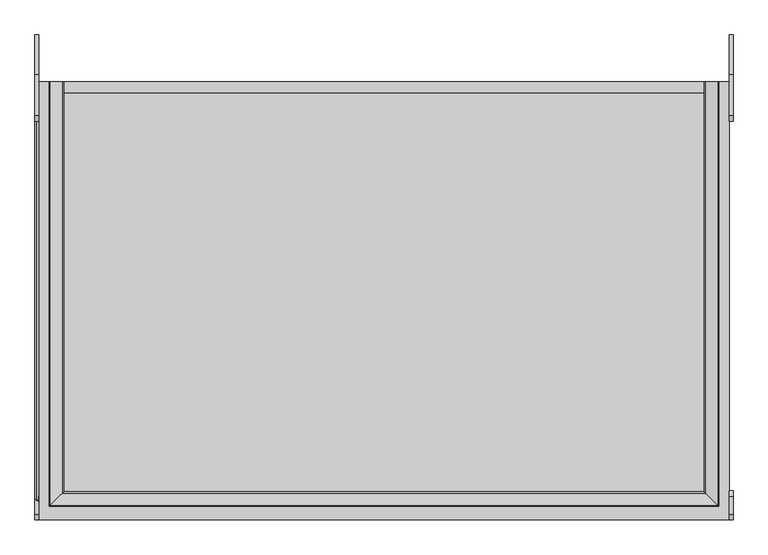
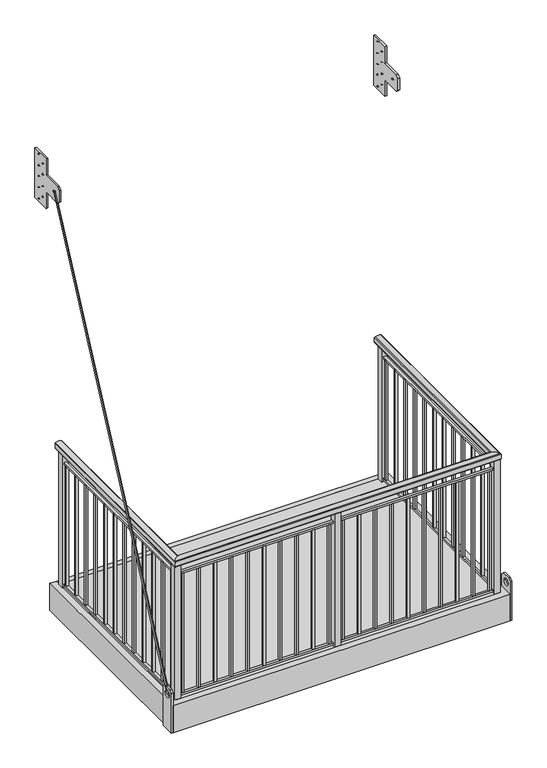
"""IFC4 building model written with IfcOpenShell, lengths in millimetres: proxy geometry, Specialty-Equipment_Endurable-Building-Products_Standard-Balcony : Vertical Pickets 5' x 8'."""

from ifc_helpers import new_model, si_unit, point, frame, frame_2d, origin, place, context, project, spatial, polyline, circle_curve, ellipse_curve, trimmed, segment, composite_curve, outline, extrude, source, transform, mapped, element, save
from ifc_brep_helpers import plane_surface, cylinder_surface, advanced_brep


def specialty_equipment_2b6d5515(model_context):
    return source(origin(), model_context, "Body", "SolidModel", [
        extrude(outline(polyline([(25.1129964, 3238.5), (164.8129964, 3238.5), (164.8129964, 2857.5), (25.1129964, 2857.5), (25.1129964, 2984.5), (-120.9370036, 2984.5), (-139.9870036, 3003.55), (-139.9870036, 3092.45), (-120.9370036, 3111.5), (25.1129964, 3111.5), (25.1129964, 3238.5)]), holes=[composite_curve([segment(trimmed(circle_curve(frame_2d((-69.85, 3048.0)), 6.35), [point((-63.5, 3048.0))], [point((-76.2, 3048.0))], True, "CARTESIAN"), True, "CONTINUOUS"), segment(trimmed(circle_curve(frame_2d((-69.85, 3048.0)), 6.35), [point((-76.2, 3048.0))], [point((-63.5, 3048.0))], True, "CARTESIAN"), True, "CONTINUOUS")], self_intersect=False), composite_curve([segment(trimmed(circle_curve(frame_2d((120.3629964, 3048.0)), 2.38125), [point((122.7442464, 3048.0))], [point((117.9817464, 3048.0))], True, "CARTESIAN"), True, "CONTINUOUS"), segment(trimmed(circle_curve(frame_2d((120.3629964, 3048.0)), 2.38125), [point((117.9817464, 3048.0))], [point((122.7442464, 3048.0))], True, "CARTESIAN"), True, "CONTINUOUS")], self_intersect=False), composite_curve([segment(trimmed(circle_curve(frame_2d((120.3629964, 3219.45)), 2.38125), [point((122.7442464, 3219.45))], [point((117.9817464, 3219.45))], True, "CARTESIAN"), True, "CONTINUOUS"), segment(trimmed(circle_curve(frame_2d((120.3629964, 3219.45)), 2.38125), [point((117.9817464, 3219.45))], [point((122.7442464, 3219.45))], True, "CARTESIAN"), True, "CONTINUOUS")], self_intersect=False), composite_curve([segment(trimmed(circle_curve(frame_2d((120.3629964, 2876.55)), 2.38125), [point((122.7442464, 2876.55))], [point((117.9817464, 2876.55))], True, "CARTESIAN"), True, "CONTINUOUS"), segment(trimmed(circle_curve(frame_2d((120.3629964, 2876.55)), 2.38125), [point((117.9817464, 2876.55))], [point((122.7442464, 2876.55))], True, "CARTESIAN"), True, "CONTINUOUS")], self_intersect=False), composite_curve([segment(trimmed(circle_curve(frame_2d((120.3629964, 2965.45)), 2.38125), [point((122.7442464, 2965.45))], [point((117.9817464, 2965.45))], True, "CARTESIAN"), True, "CONTINUOUS"), segment(trimmed(circle_curve(frame_2d((120.3629964, 2965.45)), 2.38125), [point((117.9817464, 2965.45))], [point((122.7442464, 2965.45))], True, "CARTESIAN"), True, "CONTINUOUS")], self_intersect=False), composite_curve([segment(trimmed(circle_curve(frame_2d((120.3629964, 3130.55)), 2.38125), [point((122.7442464, 3130.55))], [point((117.9817464, 3130.55))], True, "CARTESIAN"), True, "CONTINUOUS"), segment(trimmed(circle_curve(frame_2d((120.3629964, 3130.55)), 2.38125), [point((117.9817464, 3130.55))], [point((122.7442464, 3130.55))], True, "CARTESIAN"), True, "CONTINUOUS")], self_intersect=False), composite_curve([segment(trimmed(circle_curve(frame_2d((69.5629964, 3092.45)), 2.38125), [point((71.9442464, 3092.45))], [point((67.1817464, 3092.45))], True, "CARTESIAN"), True, "CONTINUOUS"), segment(trimmed(circle_curve(frame_2d((69.5629964, 3092.45)), 2.38125), [point((67.1817464, 3092.45))], [point((71.9442464, 3092.45))], True, "CARTESIAN"), True, "CONTINUOUS")], self_intersect=False), composite_curve([segment(trimmed(circle_curve(frame_2d((69.5629964, 3175.0)), 2.38125), [point((71.9442464, 3175.0))], [point((67.1817464, 3175.0))], True, "CARTESIAN"), True, "CONTINUOUS"), segment(trimmed(circle_curve(frame_2d((69.5629964, 3175.0)), 2.38125), [point((67.1817464, 3175.0))], [point((71.9442464, 3175.0))], True, "CARTESIAN"), True, "CONTINUOUS")], self_intersect=False), composite_curve([segment(trimmed(circle_curve(frame_2d((69.5629964, 3003.55)), 2.38125), [point((71.9442464, 3003.55))], [point((67.1817464, 3003.55))], True, "CARTESIAN"), True, "CONTINUOUS"), segment(trimmed(circle_curve(frame_2d((69.5629964, 3003.55)), 2.38125), [point((67.1817464, 3003.55))], [point((71.9442464, 3003.55))], True, "CARTESIAN"), True, "CONTINUOUS")], self_intersect=False), composite_curve([segment(trimmed(circle_curve(frame_2d((69.5629964, 2921.0)), 2.38125), [point((71.9442464, 2921.0))], [point((67.1817464, 2921.0))], True, "CARTESIAN"), True, "CONTINUOUS"), segment(trimmed(circle_curve(frame_2d((69.5629964, 2921.0)), 2.38125), [point((67.1817464, 2921.0))], [point((71.9442464, 2921.0))], True, "CARTESIAN"), True, "CONTINUOUS")], self_intersect=False)]), frame((-1231.9, 0.0, 0.0), z_axis=(1.0, 0.0, 0.0), x_axis=(0.0, 1.0, 0.0)), (0.0, 0.0, 1.0), 12.7),
        extrude(outline(polyline([(25.1129964, 3238.5), (164.8129964, 3238.5), (164.8129964, 2857.5), (25.1129964, 2857.5), (25.1129964, 2984.5), (-120.9370036, 2984.5), (-139.9870036, 3003.55), (-139.9870036, 3092.45), (-120.9370036, 3111.5), (25.1129964, 3111.5), (25.1129964, 3238.5)]), holes=[composite_curve([segment(trimmed(circle_curve(frame_2d((-69.85, 3048.0)), 6.35), [point((-63.5, 3048.0))], [point((-76.2, 3048.0))], True, "CARTESIAN"), True, "CONTINUOUS"), segment(trimmed(circle_curve(frame_2d((-69.85, 3048.0)), 6.35), [point((-76.2, 3048.0))], [point((-63.5, 3048.0))], True, "CARTESIAN"), True, "CONTINUOUS")], self_intersect=False), composite_curve([segment(trimmed(circle_curve(frame_2d((120.3629964, 3048.0)), 2.38125), [point((122.7442464, 3048.0))], [point((117.9817464, 3048.0))], True, "CARTESIAN"), True, "CONTINUOUS"), segment(trimmed(circle_curve(frame_2d((120.3629964, 3048.0)), 2.38125), [point((117.9817464, 3048.0))], [point((122.7442464, 3048.0))], True, "CARTESIAN"), True, "CONTINUOUS")], self_intersect=False), composite_curve([segment(trimmed(circle_curve(frame_2d((120.3629964, 3219.45)), 2.38125), [point((122.7442464, 3219.45))], [point((117.9817464, 3219.45))], True, "CARTESIAN"), True, "CONTINUOUS"), segment(trimmed(circle_curve(frame_2d((120.3629964, 3219.45)), 2.38125), [point((117.9817464, 3219.45))], [point((122.7442464, 3219.45))], True, "CARTESIAN"), True, "CONTINUOUS")], self_intersect=False), composite_curve([segment(trimmed(circle_curve(frame_2d((120.3629964, 2876.55)), 2.38125), [point((122.7442464, 2876.55))], [point((117.9817464, 2876.55))], True, "CARTESIAN"), True, "CONTINUOUS"), segment(trimmed(circle_curve(frame_2d((120.3629964, 2876.55)), 2.38125), [point((117.9817464, 2876.55))], [point((122.7442464, 2876.55))], True, "CARTESIAN"), True, "CONTINUOUS")], self_intersect=False), composite_curve([segment(trimmed(circle_curve(frame_2d((120.3629964, 2965.45)), 2.38125), [point((122.7442464, 2965.45))], [point((117.9817464, 2965.45))], True, "CARTESIAN"), True, "CONTINUOUS"), segment(trimmed(circle_curve(frame_2d((120.3629964, 2965.45)), 2.38125), [point((117.9817464, 2965.45))], [point((122.7442464, 2965.45))], True, "CARTESIAN"), True, "CONTINUOUS")], self_intersect=False), composite_curve([segment(trimmed(circle_curve(frame_2d((120.3629964, 3130.55)), 2.38125), [point((122.7442464, 3130.55))], [point((117.9817464, 3130.55))], True, "CARTESIAN"), True, "CONTINUOUS"), segment(trimmed(circle_curve(frame_2d((120.3629964, 3130.55)), 2.38125), [point((117.9817464, 3130.55))], [point((122.7442464, 3130.55))], True, "CARTESIAN"), True, "CONTINUOUS")], self_intersect=False), composite_curve([segment(trimmed(circle_curve(frame_2d((69.5629964, 3092.45)), 2.38125), [point((71.9442464, 3092.45))], [point((67.1817464, 3092.45))], True, "CARTESIAN"), True, "CONTINUOUS"), segment(trimmed(circle_curve(frame_2d((69.5629964, 3092.45)), 2.38125), [point((67.1817464, 3092.45))], [point((71.9442464, 3092.45))], True, "CARTESIAN"), True, "CONTINUOUS")], self_intersect=False), composite_curve([segment(trimmed(circle_curve(frame_2d((69.5629964, 3175.0)), 2.38125), [point((71.9442464, 3175.0))], [point((67.1817464, 3175.0))], True, "CARTESIAN"), True, "CONTINUOUS"), segment(trimmed(circle_curve(frame_2d((69.5629964, 3175.0)), 2.38125), [point((67.1817464, 3175.0))], [point((71.9442464, 3175.0))], True, "CARTESIAN"), True, "CONTINUOUS")], self_intersect=False), composite_curve([segment(trimmed(circle_curve(frame_2d((69.5629964, 3003.55)), 2.38125), [point((71.9442464, 3003.55))], [point((67.1817464, 3003.55))], True, "CARTESIAN"), True, "CONTINUOUS"), segment(trimmed(circle_curve(frame_2d((69.5629964, 3003.55)), 2.38125), [point((67.1817464, 3003.55))], [point((71.9442464, 3003.55))], True, "CARTESIAN"), True, "CONTINUOUS")], self_intersect=False), composite_curve([segment(trimmed(circle_curve(frame_2d((69.5629964, 2921.0)), 2.38125), [point((71.9442464, 2921.0))], [point((67.1817464, 2921.0))], True, "CARTESIAN"), True, "CONTINUOUS"), segment(trimmed(circle_curve(frame_2d((69.5629964, 2921.0)), 2.38125), [point((67.1817464, 2921.0))], [point((71.9442464, 2921.0))], True, "CARTESIAN"), True, "CONTINUOUS")], self_intersect=False)]), frame((1219.2, 0.0, 0.0), z_axis=(1.0, 0.0, 0.0), x_axis=(0.0, 1.0, 0.0)), (0.0, 0.0, 1.0), 12.7),
        extrude(outline(polyline([(-1545.43125, -203.2), (-1545.43125, 96.7382813), (-1526.38125, 115.7882813), (-1462.88125, 115.7882813), (-1443.83125, 96.7382813), (-1443.83125, -203.2), (-1545.43125, -203.2)]), holes=[composite_curve([segment(trimmed(circle_curve(frame_2d((-1494.63125, 64.9882813)), 25.4), [point((-1520.03125, 64.9882813))], [point((-1469.23125, 64.9882813))], True, "CARTESIAN"), True, "CONTINUOUS"), segment(trimmed(circle_curve(frame_2d((-1494.63125, 64.9882813)), 25.4), [point((-1469.23125, 64.9882813))], [point((-1520.03125, 64.9882813))], True, "CARTESIAN"), True, "CONTINUOUS")], self_intersect=False)]), frame((-1231.9, 0.0, 0.0), z_axis=(1.0, 0.0, 0.0), x_axis=(0.0, 1.0, 0.0)), (0.0, 0.0, 1.0), 12.7),
        extrude(outline(polyline([(-1545.43125, -203.2), (-1545.43125, 96.7382812), (-1526.38125, 115.7882812), (-1462.88125, 115.7882812), (-1443.83125, 96.7382812), (-1443.83125, -203.2), (-1545.43125, -203.2)]), holes=[composite_curve([segment(trimmed(circle_curve(frame_2d((-1494.63125, 64.9882812)), 25.4), [point((-1520.03125, 64.9882812))], [point((-1469.23125, 64.9882812))], True, "CARTESIAN"), True, "CONTINUOUS"), segment(trimmed(circle_curve(frame_2d((-1494.63125, 64.9882812)), 25.4), [point((-1469.23125, 64.9882812))], [point((-1520.03125, 64.9882812))], True, "CARTESIAN"), True, "CONTINUOUS")], self_intersect=False)]), frame((1219.2, 0.0, 0.0), z_axis=(1.0, 0.0, 0.0), x_axis=(0.0, 1.0, 0.0)), (0.0, 0.0, 1.0), 12.7),
        extrude(outline(polyline([(-174.5368056, -1465.2625), (-158.6618056, -1465.2625), (-158.6618056, -1481.1375), (-174.5368056, -1481.1375), (-174.5368056, -1465.2625)])), frame((0.0, 0.0, 25.4), z_axis=(0.0, 0.0, 1.0), x_axis=(1.0, 0.0, 0.0)), (0.0, 0.0, 1.0), 914.4),
        extrude(outline(polyline([(-292.7173611, -1465.2625), (-276.8423611, -1465.2625), (-276.8423611, -1481.1375), (-292.7173611, -1481.1375), (-292.7173611, -1465.2625)])), frame((0.0, 0.0, 25.4), z_axis=(0.0, 0.0, 1.0), x_axis=(1.0, 0.0, 0.0)), (0.0, 0.0, 1.0), 914.4),
        extrude(outline(polyline([(-410.8979167, -1465.2625), (-395.0229167, -1465.2625), (-395.0229167, -1481.1375), (-410.8979167, -1481.1375), (-410.8979167, -1465.2625)])), frame((0.0, 0.0, 25.4), z_axis=(0.0, 0.0, 1.0), x_axis=(1.0, 0.0, 0.0)), (0.0, 0.0, 1.0), 914.4),
        extrude(outline(polyline([(-529.0784722, -1465.2625), (-513.2034722, -1465.2625), (-513.2034722, -1481.1375), (-529.0784722, -1481.1375), (-529.0784722, -1465.2625)])), frame((0.0, 0.0, 25.4), z_axis=(0.0, 0.0, 1.0), x_axis=(1.0, 0.0, 0.0)), (0.0, 0.0, 1.0), 914.4),
        extrude(outline(polyline([(-647.2590278, -1465.2625), (-631.3840278, -1465.2625), (-631.3840278, -1481.1375), (-647.2590278, -1481.1375), (-647.2590278, -1465.2625)])), frame((0.0, 0.0, 25.4), z_axis=(0.0, 0.0, 1.0), x_axis=(1.0, 0.0, 0.0)), (0.0, 0.0, 1.0), 914.4),
        extrude(outline(polyline([(-765.4395833, -1465.2625), (-749.5645833, -1465.2625), (-749.5645833, -1481.1375), (-765.4395833, -1481.1375), (-765.4395833, -1465.2625)])), frame((0.0, 0.0, 25.4), z_axis=(0.0, 0.0, 1.0), x_axis=(1.0, 0.0, 0.0)), (0.0, 0.0, 1.0), 914.4),
        extrude(outline(polyline([(-883.6201389, -1465.2625), (-867.7451389, -1465.2625), (-867.7451389, -1481.1375), (-883.6201389, -1481.1375), (-883.6201389, -1465.2625)])), frame((0.0, 0.0, 25.4), z_axis=(0.0, 0.0, 1.0), x_axis=(1.0, 0.0, 0.0)), (0.0, 0.0, 1.0), 914.4),
        extrude(outline(polyline([(-1001.8006944, -1465.2625), (-985.9256944, -1465.2625), (-985.9256944, -1481.1375), (-1001.8006944, -1481.1375), (-1001.8006944, -1465.2625)])), frame((0.0, 0.0, 25.4), z_axis=(0.0, 0.0, 1.0), x_axis=(1.0, 0.0, 0.0)), (0.0, 0.0, 1.0), 914.4),
        extrude(outline(polyline([(-56.35625, -1465.2625), (-40.48125, -1465.2625), (-40.48125, -1481.1375), (-56.35625, -1481.1375), (-56.35625, -1465.2625)])), frame((0.0, 0.0, 25.4), z_axis=(0.0, 0.0, 1.0), x_axis=(1.0, 0.0, 0.0)), (0.0, 0.0, 1.0), 914.4),
        extrude(outline(polyline([(-1119.98125, -1465.2625), (-1104.10625, -1465.2625), (-1104.10625, -1481.1375), (-1119.98125, -1481.1375), (-1119.98125, -1465.2625)])), frame((0.0, 0.0, 25.4), z_axis=(0.0, 0.0, 1.0), x_axis=(1.0, 0.0, 0.0)), (0.0, 0.0, 1.0), 914.4),
        extrude(outline(polyline([(174.5368056, -1465.2625), (174.5368056, -1481.1375), (158.6618056, -1481.1375), (158.6618056, -1465.2625), (174.5368056, -1465.2625)])), frame((0.0, 0.0, 25.4), z_axis=(0.0, 0.0, 1.0), x_axis=(1.0, 0.0, 0.0)), (0.0, 0.0, 1.0), 914.4),
        extrude(outline(polyline([(292.7173611, -1465.2625), (292.7173611, -1481.1375), (276.8423611, -1481.1375), (276.8423611, -1465.2625), (292.7173611, -1465.2625)])), frame((0.0, 0.0, 25.4), z_axis=(0.0, 0.0, 1.0), x_axis=(1.0, 0.0, 0.0)), (0.0, 0.0, 1.0), 914.4),
        extrude(outline(polyline([(410.8979167, -1465.2625), (410.8979167, -1481.1375), (395.0229167, -1481.1375), (395.0229167, -1465.2625), (410.8979167, -1465.2625)])), frame((0.0, 0.0, 25.4), z_axis=(0.0, 0.0, 1.0), x_axis=(1.0, 0.0, 0.0)), (0.0, 0.0, 1.0), 914.4),
        extrude(outline(polyline([(529.0784722, -1465.2625), (529.0784722, -1481.1375), (513.2034722, -1481.1375), (513.2034722, -1465.2625), (529.0784722, -1465.2625)])), frame((0.0, 0.0, 25.4), z_axis=(0.0, 0.0, 1.0), x_axis=(1.0, 0.0, 0.0)), (0.0, 0.0, 1.0), 914.4),
        extrude(outline(polyline([(647.2590278, -1465.2625), (647.2590278, -1481.1375), (631.3840278, -1481.1375), (631.3840278, -1465.2625), (647.2590278, -1465.2625)])), frame((0.0, 0.0, 25.4), z_axis=(0.0, 0.0, 1.0), x_axis=(1.0, 0.0, 0.0)), (0.0, 0.0, 1.0), 914.4),
        extrude(outline(polyline([(765.4395833, -1465.2625), (765.4395833, -1481.1375), (749.5645833, -1481.1375), (749.5645833, -1465.2625), (765.4395833, -1465.2625)])), frame((0.0, 0.0, 25.4), z_axis=(0.0, 0.0, 1.0), x_axis=(1.0, 0.0, 0.0)), (0.0, 0.0, 1.0), 914.4),
        extrude(outline(polyline([(883.6201389, -1465.2625), (883.6201389, -1481.1375), (867.7451389, -1481.1375), (867.7451389, -1465.2625), (883.6201389, -1465.2625)])), frame((0.0, 0.0, 25.4), z_axis=(0.0, 0.0, 1.0), x_axis=(1.0, 0.0, 0.0)), (0.0, 0.0, 1.0), 914.4),
        extrude(outline(polyline([(1001.8006944, -1465.2625), (1001.8006944, -1481.1375), (985.9256944, -1481.1375), (985.9256944, -1465.2625), (1001.8006944, -1465.2625)])), frame((0.0, 0.0, 25.4), z_axis=(0.0, 0.0, 1.0), x_axis=(1.0, 0.0, 0.0)), (0.0, 0.0, 1.0), 914.4),
        extrude(outline(polyline([(56.35625, -1465.2625), (56.35625, -1481.1375), (40.48125, -1481.1375), (40.48125, -1465.2625), (56.35625, -1465.2625)])), frame((0.0, 0.0, 25.4), z_axis=(0.0, 0.0, 1.0), x_axis=(1.0, 0.0, 0.0)), (0.0, 0.0, 1.0), 914.4),
        extrude(outline(polyline([(1119.98125, -1465.2625), (1119.98125, -1481.1375), (1104.10625, -1481.1375), (1104.10625, -1465.2625), (1119.98125, -1465.2625)])), frame((0.0, 0.0, 25.4), z_axis=(0.0, 0.0, 1.0), x_axis=(1.0, 0.0, 0.0)), (0.0, 0.0, 1.0), 914.4),
        extrude(outline(polyline([(-1134.26875, -1465.2625), (-21.43125, -1465.2625), (-21.43125, -1481.1375), (-1134.26875, -1481.1375), (-1134.26875, -1465.2625)])), frame((0.0, 0.0, 9.525), z_axis=(0.0, 0.0, 1.0), x_axis=(1.0, 0.0, 0.0)), (0.0, 0.0, 1.0), 15.875),
        extrude(outline(polyline([(-1134.26875, -1465.2625), (-21.43125, -1465.2625), (-21.43125, -1481.1375), (-1134.26875, -1481.1375), (-1134.26875, -1465.2625)])), frame((0.0, 0.0, 939.8), z_axis=(0.0, 0.0, 1.0), x_axis=(1.0, 0.0, 0.0)), (0.0, 0.0, 1.0), 15.875),
        extrude(outline(polyline([(21.43125, -1451.76875), (21.43125, -1494.63125), (-21.43125, -1494.63125), (-21.43125, -1451.76875), (21.43125, -1451.76875)])), frame((0.0, 0.0, -203.2), z_axis=(0.0, 0.0, 1.0), x_axis=(1.0, 0.0, 0.0)), (0.0, 0.0, 1.0), 1219.2),
        extrude(outline(polyline([(21.43125, -1465.2625), (1134.26875, -1465.2625), (1134.26875, -1481.1375), (21.43125, -1481.1375), (21.43125, -1465.2625)])), frame((0.0, 0.0, 9.525), z_axis=(0.0, 0.0, 1.0), x_axis=(1.0, 0.0, 0.0)), (0.0, 0.0, 1.0), 15.875),
        extrude(outline(polyline([(21.43125, -1465.2625), (1134.26875, -1465.2625), (1134.26875, -1481.1375), (21.43125, -1481.1375), (21.43125, -1465.2625)])), frame((0.0, 0.0, 939.8), z_axis=(0.0, 0.0, 1.0), x_axis=(1.0, 0.0, 0.0)), (0.0, 0.0, 1.0), 15.875),
        extrude(outline(polyline([(1163.6375, -215.8278409), (1163.6375, -231.7028409), (1147.7625, -231.7028409), (1147.7625, -215.8278409), (1163.6375, -215.8278409)])), frame((0.0, 0.0, 25.4), z_axis=(0.0, 0.0, 1.0), x_axis=(1.0, 0.0, 0.0)), (0.0, 0.0, 1.0), 914.4),
        extrude(outline(polyline([(1163.6375, -336.4056818), (1163.6375, -352.2806818), (1147.7625, -352.2806818), (1147.7625, -336.4056818), (1163.6375, -336.4056818)])), frame((0.0, 0.0, 25.4), z_axis=(0.0, 0.0, 1.0), x_axis=(1.0, 0.0, 0.0)), (0.0, 0.0, 1.0), 914.4),
        extrude(outline(polyline([(1163.6375, -456.9835227), (1163.6375, -472.8585227), (1147.7625, -472.8585227), (1147.7625, -456.9835227), (1163.6375, -456.9835227)])), frame((0.0, 0.0, 25.4), z_axis=(0.0, 0.0, 1.0), x_axis=(1.0, 0.0, 0.0)), (0.0, 0.0, 1.0), 914.4),
        extrude(outline(polyline([(1163.6375, -577.5613636), (1163.6375, -593.4363636), (1147.7625, -593.4363636), (1147.7625, -577.5613636), (1163.6375, -577.5613636)])), frame((0.0, 0.0, 25.4), z_axis=(0.0, 0.0, 1.0), x_axis=(1.0, 0.0, 0.0)), (0.0, 0.0, 1.0), 914.4),
        extrude(outline(polyline([(1163.6375, -698.1392045), (1163.6375, -714.0142045), (1147.7625, -714.0142045), (1147.7625, -698.1392045), (1163.6375, -698.1392045)])), frame((0.0, 0.0, 25.4), z_axis=(0.0, 0.0, 1.0), x_axis=(1.0, 0.0, 0.0)), (0.0, 0.0, 1.0), 914.4),
        extrude(outline(polyline([(1163.6375, -818.7170455), (1163.6375, -834.5920455), (1147.7625, -834.5920455), (1147.7625, -818.7170455), (1163.6375, -818.7170455)])), frame((0.0, 0.0, 25.4), z_axis=(0.0, 0.0, 1.0), x_axis=(1.0, 0.0, 0.0)), (0.0, 0.0, 1.0), 914.4),
        extrude(outline(polyline([(1163.6375, -939.2948864), (1163.6375, -955.1698864), (1147.7625, -955.1698864), (1147.7625, -939.2948864), (1163.6375, -939.2948864)])), frame((0.0, 0.0, 25.4), z_axis=(0.0, 0.0, 1.0), x_axis=(1.0, 0.0, 0.0)), (0.0, 0.0, 1.0), 914.4),
        extrude(outline(polyline([(1163.6375, -1059.8727273), (1163.6375, -1075.7477273), (1147.7625, -1075.7477273), (1147.7625, -1059.8727273), (1163.6375, -1059.8727273)])), frame((0.0, 0.0, 25.4), z_axis=(0.0, 0.0, 1.0), x_axis=(1.0, 0.0, 0.0)), (0.0, 0.0, 1.0), 914.4),
        extrude(outline(polyline([(1163.6375, -1180.4505682), (1163.6375, -1196.3255682), (1147.7625, -1196.3255682), (1147.7625, -1180.4505682), (1163.6375, -1180.4505682)])), frame((0.0, 0.0, 25.4), z_axis=(0.0, 0.0, 1.0), x_axis=(1.0, 0.0, 0.0)), (0.0, 0.0, 1.0), 914.4),
        extrude(outline(polyline([(1163.6375, -1301.0284091), (1163.6375, -1316.9034091), (1147.7625, -1316.9034091), (1147.7625, -1301.0284091), (1163.6375, -1301.0284091)])), frame((0.0, 0.0, 25.4), z_axis=(0.0, 0.0, 1.0), x_axis=(1.0, 0.0, 0.0)), (0.0, 0.0, 1.0), 914.4),
        extrude(outline(polyline([(-1147.7625, -215.8278409), (-1147.7625, -231.7028409), (-1163.6375, -231.7028409), (-1163.6375, -215.8278409), (-1147.7625, -215.8278409)])), frame((0.0, 0.0, 25.4), z_axis=(0.0, 0.0, 1.0), x_axis=(1.0, 0.0, 0.0)), (0.0, 0.0, 1.0), 914.4),
        extrude(outline(polyline([(-1147.7625, -336.4056818), (-1147.7625, -352.2806818), (-1163.6375, -352.2806818), (-1163.6375, -336.4056818), (-1147.7625, -336.4056818)])), frame((0.0, 0.0, 25.4), z_axis=(0.0, 0.0, 1.0), x_axis=(1.0, 0.0, 0.0)), (0.0, 0.0, 1.0), 914.4),
        extrude(outline(polyline([(-1147.7625, -456.9835227), (-1147.7625, -472.8585227), (-1163.6375, -472.8585227), (-1163.6375, -456.9835227), (-1147.7625, -456.9835227)])), frame((0.0, 0.0, 25.4), z_axis=(0.0, 0.0, 1.0), x_axis=(1.0, 0.0, 0.0)), (0.0, 0.0, 1.0), 914.4),
        extrude(outline(polyline([(-1147.7625, -577.5613636), (-1147.7625, -593.4363636), (-1163.6375, -593.4363636), (-1163.6375, -577.5613636), (-1147.7625, -577.5613636)])), frame((0.0, 0.0, 25.4), z_axis=(0.0, 0.0, 1.0), x_axis=(1.0, 0.0, 0.0)), (0.0, 0.0, 1.0), 914.4),
        extrude(outline(polyline([(-1147.7625, -698.1392045), (-1147.7625, -714.0142045), (-1163.6375, -714.0142045), (-1163.6375, -698.1392045), (-1147.7625, -698.1392045)])), frame((0.0, 0.0, 25.4), z_axis=(0.0, 0.0, 1.0), x_axis=(1.0, 0.0, 0.0)), (0.0, 0.0, 1.0), 914.4),
        extrude(outline(polyline([(-1147.7625, -818.7170455), (-1147.7625, -834.5920455), (-1163.6375, -834.5920455), (-1163.6375, -818.7170455), (-1147.7625, -818.7170455)])), frame((0.0, 0.0, 25.4), z_axis=(0.0, 0.0, 1.0), x_axis=(1.0, 0.0, 0.0)), (0.0, 0.0, 1.0), 914.4),
        extrude(outline(polyline([(-1147.7625, -939.2948864), (-1147.7625, -955.1698864), (-1163.6375, -955.1698864), (-1163.6375, -939.2948864), (-1147.7625, -939.2948864)])), frame((0.0, 0.0, 25.4), z_axis=(0.0, 0.0, 1.0), x_axis=(1.0, 0.0, 0.0)), (0.0, 0.0, 1.0), 914.4),
        extrude(outline(polyline([(-1147.7625, -1059.8727273), (-1147.7625, -1075.7477273), (-1163.6375, -1075.7477273), (-1163.6375, -1059.8727273), (-1147.7625, -1059.8727273)])), frame((0.0, 0.0, 25.4), z_axis=(0.0, 0.0, 1.0), x_axis=(1.0, 0.0, 0.0)), (0.0, 0.0, 1.0), 914.4),
        extrude(outline(polyline([(-1147.7625, -1180.4505682), (-1147.7625, -1196.3255682), (-1163.6375, -1196.3255682), (-1163.6375, -1180.4505682), (-1147.7625, -1180.4505682)])), frame((0.0, 0.0, 25.4), z_axis=(0.0, 0.0, 1.0), x_axis=(1.0, 0.0, 0.0)), (0.0, 0.0, 1.0), 914.4),
        extrude(outline(polyline([(-1147.7625, -1301.0284091), (-1147.7625, -1316.9034091), (-1163.6375, -1316.9034091), (-1163.6375, -1301.0284091), (-1147.7625, -1301.0284091)])), frame((0.0, 0.0, 25.4), z_axis=(0.0, 0.0, 1.0), x_axis=(1.0, 0.0, 0.0)), (0.0, 0.0, 1.0), 914.4),
        extrude(outline(polyline([(1163.6375, -95.25), (1163.6375, -111.125), (1147.7625, -111.125), (1147.7625, -95.25), (1163.6375, -95.25)])), frame((0.0, 0.0, 25.4), z_axis=(0.0, 0.0, 1.0), x_axis=(1.0, 0.0, 0.0)), (0.0, 0.0, 1.0), 914.4),
        extrude(outline(polyline([(-1147.7625, -95.25), (-1147.7625, -111.125), (-1163.6375, -111.125), (-1163.6375, -95.25), (-1147.7625, -95.25)])), frame((0.0, 0.0, 25.4), z_axis=(0.0, 0.0, 1.0), x_axis=(1.0, 0.0, 0.0)), (0.0, 0.0, 1.0), 914.4),
        extrude(outline(polyline([(-1147.7625, -80.9625), (-1147.7625, -1451.76875), (-1163.6375, -1451.76875), (-1163.6375, -80.9625), (-1147.7625, -80.9625)])), frame((0.0, 0.0, 9.525), z_axis=(0.0, 0.0, 1.0), x_axis=(1.0, 0.0, 0.0)), (0.0, 0.0, 1.0), 15.875),
        extrude(outline(polyline([(-1147.7625, -80.9625), (-1147.7625, -1451.76875), (-1163.6375, -1451.76875), (-1163.6375, -80.9625), (-1147.7625, -80.9625)])), frame((0.0, 0.0, 939.8), z_axis=(0.0, 0.0, 1.0), x_axis=(1.0, 0.0, 0.0)), (0.0, 0.0, 1.0), 15.875),
        extrude(outline(polyline([(-1147.7625, -1421.60625), (-1147.7625, -1437.48125), (-1163.6375, -1437.48125), (-1163.6375, -1421.60625), (-1147.7625, -1421.60625)])), frame((0.0, 0.0, 25.4), z_axis=(0.0, 0.0, 1.0), x_axis=(1.0, 0.0, 0.0)), (0.0, 0.0, 1.0), 914.4),
        extrude(outline(polyline([(1163.6375, -80.9625), (1163.6375, -1451.76875), (1147.7625, -1451.76875), (1147.7625, -80.9625), (1163.6375, -80.9625)])), frame((0.0, 0.0, 9.525), z_axis=(0.0, 0.0, 1.0), x_axis=(1.0, 0.0, 0.0)), (0.0, 0.0, 1.0), 15.875),
        extrude(outline(polyline([(1163.6375, -80.9625), (1163.6375, -1451.76875), (1147.7625, -1451.76875), (1147.7625, -80.9625), (1163.6375, -80.9625)])), frame((0.0, 0.0, 939.8), z_axis=(0.0, 0.0, 1.0), x_axis=(1.0, 0.0, 0.0)), (0.0, 0.0, 1.0), 15.875),
        extrude(outline(polyline([(1163.6375, -1421.60625), (1163.6375, -1437.48125), (1147.7625, -1437.48125), (1147.7625, -1421.60625), (1163.6375, -1421.60625)])), frame((0.0, 0.0, 25.4), z_axis=(0.0, 0.0, 1.0), x_axis=(1.0, 0.0, 0.0)), (0.0, 0.0, 1.0), 914.4),
        extrude(outline(polyline([(542.925, -38.1), (542.925, -1494.63125), (504.825, -1494.63125), (504.825, -38.1), (542.925, -38.1)])), frame((0.0, 0.0, -203.2), z_axis=(0.0, 0.0, 1.0), x_axis=(1.0, 0.0, 0.0)), (0.0, 0.0, 1.0), 177.8),
        extrude(outline(polyline([(19.05, -38.1), (19.05, -1494.63125), (-19.05, -1494.63125), (-19.05, -38.1), (19.05, -38.1)])), frame((0.0, 0.0, -203.2), z_axis=(0.0, 0.0, 1.0), x_axis=(1.0, 0.0, 0.0)), (0.0, 0.0, 1.0), 177.8),
        extrude(outline(polyline([(-504.825, -38.1), (-504.825, -1494.63125), (-542.925, -1494.63125), (-542.925, -38.1), (-504.825, -38.1)])), frame((0.0, 0.0, -203.2), z_axis=(0.0, 0.0, 1.0), x_axis=(1.0, 0.0, 0.0)), (0.0, 0.0, 1.0), 177.8),
        extrude(outline(polyline([(1066.8, -38.1), (1066.8, -1494.63125), (1028.7, -1494.63125), (1028.7, -38.1), (1066.8, -38.1)])), frame((0.0, 0.0, -203.2), z_axis=(0.0, 0.0, 1.0), x_axis=(1.0, 0.0, 0.0)), (0.0, 0.0, 1.0), 177.8),
        extrude(outline(polyline([(1134.26875, -38.1), (1177.13125, -38.1), (1177.13125, -80.9625), (1134.26875, -80.9625), (1134.26875, -38.1)])), frame((0.0, 0.0, -203.2), z_axis=(0.0, 0.0, 1.0), x_axis=(1.0, 0.0, 0.0)), (0.0, 0.0, 1.0), 1219.2),
        extrude(outline(polyline([(-1134.26875, -38.1), (-1134.26875, -80.9625), (-1177.13125, -80.9625), (-1177.13125, -38.1), (-1134.26875, -38.1)])), frame((0.0, 0.0, -203.2), z_axis=(0.0, 0.0, 1.0), x_axis=(1.0, 0.0, 0.0)), (0.0, 0.0, 1.0), 1219.2),
        extrude(outline(polyline([(1168.4, 0.0), (1168.4, -38.1), (-1168.4, -38.1), (-1168.4, 0.0), (1168.4, 0.0)])), frame((0.0, 0.0, -203.2), z_axis=(0.0, 0.0, 1.0), x_axis=(1.0, 0.0, 0.0)), (0.0, 0.0, 1.0), 203.2),
        extrude(outline(polyline([(-1028.7, -38.1), (-1028.7, -1494.63125), (-1066.8, -1494.63125), (-1066.8, -38.1), (-1028.7, -38.1)])), frame((0.0, 0.0, -203.2), z_axis=(0.0, 0.0, 1.0), x_axis=(1.0, 0.0, 0.0)), (0.0, 0.0, 1.0), 177.8),
        extrude(outline(polyline([(-1134.26875, -1451.76875), (-1134.26875, -1494.63125), (-1177.13125, -1494.63125), (-1177.13125, -1451.76875), (-1134.26875, -1451.76875)])), frame((0.0, 0.0, -203.2), z_axis=(0.0, 0.0, 1.0), x_axis=(1.0, 0.0, 0.0)), (0.0, 0.0, 1.0), 1219.2),
        extrude(outline(polyline([(1177.13125, -1451.76875), (1177.13125, -1494.63125), (1134.26875, -1494.63125), (1134.26875, -1451.76875), (1177.13125, -1451.76875)])), frame((0.0, 0.0, -203.2), z_axis=(0.0, 0.0, 1.0), x_axis=(1.0, 0.0, 0.0)), (0.0, 0.0, 1.0), 1219.2),
        extrude(outline(polyline([(-1168.4, -1494.63125), (-1168.4, -38.1), (1168.4, -38.1), (1168.4, -1494.63125), (-1168.4, -1494.63125)])), frame((0.0, 0.0, -25.4), z_axis=(0.0, 0.0, 1.0), x_axis=(1.0, 0.0, 0.0)), (0.0, 0.0, 1.0), 25.4),
        extrude(outline(composite_curve([segment(trimmed(circle_curve(frame_2d((-6.35, 0.0)), 6.35), [point((-6.35, 6.35))], [point((-6.35, -6.35))], False, "CARTESIAN"), True, "CONTINUOUS"), segment(trimmed(circle_curve(frame_2d((-6.35, 0.0)), 6.35), [point((-6.35, -6.35))], [point((-6.35, 6.35))], False, "CARTESIAN"), True, "CONTINUOUS")], self_intersect=False)), frame((-1219.2, -1494.63125, 64.9882812), z_axis=(0.0, 0.43099346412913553, 0.9023550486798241), x_axis=(1.0, 0.0, 0.0)), (0.0, 0.0, 1.0), 3305.8070912),
        extrude(outline(polyline([(-1219.2, 0.0), (-1168.4, 0.0), (-1168.4, -1494.63125), (1168.4, -1494.63125), (1168.4, 0.0), (1219.2, 0.0), (1219.2, -1545.43125), (-1219.2, -1545.43125), (-1219.2, 0.0)])), frame((0.0, 0.0, -203.2), z_axis=(0.0, 0.0, 1.0), x_axis=(1.0, 0.0, 0.0)), (0.0, 0.0, 1.0), 203.2),
        advanced_brep(
        [(1181.1, 0.0, 1056.4003287), (1181.1, 0.0, 1022.35), (1174.75, 0.0, 1016.0), (1136.65, 0.0, 1016.0), (1130.3, 0.0, 1022.35), (1130.3, 0.0, 1056.4003287), (1134.0669492, 0.0, 1062.2012207), (1177.3330508, 0.0, 1062.2012207), (-1181.1, 0.0, 1056.4003287), (-1177.3330508, 0.0, 1062.2012207), (-1134.0669492, 0.0, 1062.2012207), (-1130.3, 0.0, 1056.4003287), (-1130.3, 0.0, 1022.35), (-1136.65, 0.0, 1016.0), (-1174.75, 0.0, 1016.0), (-1181.1, 0.0, 1022.35), (1181.1, -1498.6, 1056.4003287), (1181.1, -1498.6, 1022.35), (1174.75, -1492.25, 1016.0), (-1174.75, -1492.25, 1016.0), (-1136.65, -1454.15, 1016.0), (1136.65, -1454.15, 1016.0), (1130.3, -1447.8, 1022.35), (1130.3, -1447.8, 1056.4003287), (1134.0669492, -1451.5669492, 1062.2012207), (1177.3330508, -1494.8330508, 1062.2012207), (-1181.1, -1498.6, 1056.4003287), (-1181.1, -1498.6, 1022.35), (-1130.3, -1447.8, 1022.35), (-1130.3, -1447.8, 1056.4003287), (-1134.0669492, -1451.5669492, 1062.2012207), (-1177.3330508, -1494.8330508, 1062.2012207)],
        [
            (0, 1),
            (1, 2, circle_curve(frame((1174.75, 0.0, 1022.35), z_axis=(0.0, 1.0, 0.0), x_axis=(1.0, 0.0, 0.0)), 6.35)),
            (2, 3),
            (3, 4, circle_curve(frame((1136.65, 0.0, 1022.35), z_axis=(0.0, 1.0, 0.0), x_axis=(1.0, 0.0, 0.0)), 6.35)),
            (4, 5),
            (5, 6, circle_curve(frame((1136.65, 0.0, 1056.4003287), z_axis=(0.0, 1.0, 0.0), x_axis=(1.0, 0.0, 0.0)), 6.35)),
            (6, 7, circle_curve(frame((1155.7, 0.0, 1013.61875), z_axis=(0.0, 1.0, 0.0), x_axis=(1.0, 0.0, 0.0)), 53.18125)),
            (7, 0, circle_curve(frame((1174.75, 0.0, 1056.4003287), z_axis=(0.0, 1.0, 0.0), x_axis=(1.0, 0.0, 0.0)), 6.35)),
            (8, 9, circle_curve(frame((-1174.75, 0.0, 1056.4003287), z_axis=(0.0, 1.0, 0.0), x_axis=(-1.0, 0.0, 0.0)), 6.35)),
            (9, 10, circle_curve(frame((-1155.7, 0.0, 1013.61875), z_axis=(0.0, 1.0, 0.0), x_axis=(-1.0, 0.0, 0.0)), 53.18125)),
            (10, 11, circle_curve(frame((-1136.65, 0.0, 1056.4003287), z_axis=(0.0, 1.0, 0.0), x_axis=(-1.0, 0.0, 0.0)), 6.35)),
            (11, 12),
            (12, 13, circle_curve(frame((-1136.65, 0.0, 1022.35), z_axis=(0.0, 1.0, 0.0), x_axis=(-1.0, 0.0, 0.0)), 6.35)),
            (13, 14),
            (14, 15, circle_curve(frame((-1174.75, 0.0, 1022.35), z_axis=(0.0, 1.0, 0.0), x_axis=(-1.0, 0.0, 0.0)), 6.35)),
            (15, 8),
            (0, 16),
            (16, 17),
            (17, 1),
            (17, 18, ellipse_curve(frame((1174.75, -1492.25, 1022.35), z_axis=(0.7071067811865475, 0.7071067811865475, 0.0), x_axis=(-0.7071067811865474, 0.7071067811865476, 0.0)), 8.9802561, 6.35)),
            (18, 2),
            (18, 19),
            (19, 14),
            (13, 20),
            (20, 21),
            (21, 3),
            (21, 22, ellipse_curve(frame((1136.65, -1454.15, 1022.35), z_axis=(0.7071067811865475, 0.7071067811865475, 0.0), x_axis=(-0.7071067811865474, 0.7071067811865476, 0.0)), 8.9802561, 6.35)),
            (22, 4),
            (22, 23),
            (23, 5),
            (23, 24, ellipse_curve(frame((1136.65, -1454.15, 1056.4003287), z_axis=(0.7071067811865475, 0.7071067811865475, 0.0), x_axis=(-0.7071067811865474, 0.7071067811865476, 0.0)), 8.9802561, 6.35)),
            (24, 6),
            (24, 25, ellipse_curve(frame((1155.7, -1473.2, 1013.61875), z_axis=(0.7071067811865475, 0.7071067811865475, 0.0), x_axis=(-0.7071067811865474, 0.7071067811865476, 0.0)), 75.209645, 53.18125)),
            (25, 7),
            (25, 16, ellipse_curve(frame((1174.75, -1492.25, 1056.4003287), z_axis=(0.7071067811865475, 0.7071067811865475, 0.0), x_axis=(-0.7071067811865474, 0.7071067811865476, 0.0)), 8.9802561, 6.35)),
            (16, 26),
            (26, 27),
            (27, 17),
            (27, 19, ellipse_curve(frame((-1174.75, -1492.25, 1022.35), z_axis=(0.7071067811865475, -0.7071067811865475, 0.0), x_axis=(0.7071067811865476, 0.7071067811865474, 0.0)), 8.9802561, 6.35)),
            (20, 28, ellipse_curve(frame((-1136.65, -1454.15, 1022.35), z_axis=(0.7071067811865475, -0.7071067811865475, 0.0), x_axis=(0.7071067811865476, 0.7071067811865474, 0.0)), 8.9802561, 6.35)),
            (28, 22),
            (28, 29),
            (29, 23),
            (29, 30, ellipse_curve(frame((-1136.65, -1454.15, 1056.4003287), z_axis=(0.7071067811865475, -0.7071067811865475, 0.0), x_axis=(0.7071067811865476, 0.7071067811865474, 0.0)), 8.9802561, 6.35)),
            (30, 24),
            (30, 31, ellipse_curve(frame((-1155.7, -1473.2, 1013.61875), z_axis=(0.7071067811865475, -0.7071067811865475, 0.0), x_axis=(0.7071067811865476, 0.7071067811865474, 0.0)), 75.209645, 53.18125)),
            (31, 25),
            (31, 26, ellipse_curve(frame((-1174.75, -1492.25, 1056.4003287), z_axis=(0.7071067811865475, -0.7071067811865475, 0.0), x_axis=(0.7071067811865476, 0.7071067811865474, 0.0)), 8.9802561, 6.35)),
            (26, 8),
            (15, 27),
            (12, 28),
            (11, 29),
            (10, 30),
            (9, 31),
        ],
        [
            plane_surface(frame((1155.7, 0.0, 0.0), z_axis=(0.0, 1.0, 0.0), x_axis=(0.0, 0.0, 1.0))),
            plane_surface(frame((-1155.7, 0.0, 0.0), z_axis=(0.0, 1.0, 0.0), x_axis=(0.0, 0.0, 1.0))),
            plane_surface(frame((1181.1, 0.0, 1056.4003287), z_axis=(1.0, 0.0, 0.0), x_axis=(0.0, -1.0, 0.0))),
            cylinder_surface(frame((1174.75, 0.0, 1022.35), z_axis=(0.0, 1.0, 0.0), x_axis=(1.0, 0.0, 0.0)), 6.35),
            plane_surface(frame((1174.75, 0.0, 1016.0), z_axis=(0.0, 0.0, -1.0), x_axis=(0.0, -1.0, 0.0))),
            cylinder_surface(frame((1136.65, 0.0, 1022.35), z_axis=(0.0, 1.0, 0.0), x_axis=(1.0, 0.0, 0.0)), 6.35),
            plane_surface(frame((1130.3, 0.0, 1022.35), z_axis=(-1.0, 0.0, 0.0), x_axis=(0.0, -1.0, 0.0))),
            cylinder_surface(frame((1136.65, 0.0, 1056.4003287), z_axis=(0.0, 1.0, 0.0), x_axis=(1.0, 0.0, 0.0)), 6.35),
            cylinder_surface(frame((1155.7, 0.0, 1013.61875), z_axis=(0.0, 1.0, 0.0), x_axis=(1.0, 0.0, 0.0)), 53.18125),
            cylinder_surface(frame((1174.75, 0.0, 1056.4003287), z_axis=(0.0, 1.0, 0.0), x_axis=(1.0, 0.0, 0.0)), 6.35),
            plane_surface(frame((1181.1, -1498.6, 1056.4003287), z_axis=(0.0, -1.0, 0.0), x_axis=(-1.0, 0.0, 0.0))),
            cylinder_surface(frame((1155.7, -1492.25, 1022.35), z_axis=(1.0, 0.0, 0.0), x_axis=(0.0, -1.0, 0.0)), 6.35),
            cylinder_surface(frame((1155.7, -1454.15, 1022.35), z_axis=(1.0, 0.0, 0.0), x_axis=(0.0, -1.0, 0.0)), 6.35),
            plane_surface(frame((1130.3, -1447.8, 1022.35), z_axis=(0.0, 1.0, 0.0), x_axis=(-1.0, 0.0, 0.0))),
            cylinder_surface(frame((1155.7, -1454.15, 1056.4003287), z_axis=(1.0, 0.0, 0.0), x_axis=(0.0, -1.0, 0.0)), 6.35),
            cylinder_surface(frame((1155.7, -1473.2, 1013.61875), z_axis=(1.0, 0.0, 0.0), x_axis=(0.0, -1.0, 0.0)), 53.18125),
            cylinder_surface(frame((1155.7, -1492.25, 1056.4003287), z_axis=(1.0, 0.0, 0.0), x_axis=(0.0, -1.0, 0.0)), 6.35),
            plane_surface(frame((-1181.1, -1498.6, 1056.4003287), z_axis=(-1.0, 0.0, 0.0), x_axis=(0.0, 1.0, 0.0))),
            cylinder_surface(frame((-1174.75, -1473.2, 1022.35), z_axis=(0.0, -1.0, 0.0), x_axis=(-1.0, 0.0, 0.0)), 6.35),
            cylinder_surface(frame((-1136.65, -1473.2, 1022.35), z_axis=(0.0, -1.0, 0.0), x_axis=(-1.0, 0.0, 0.0)), 6.35),
            plane_surface(frame((-1130.3, -1447.8, 1022.35), z_axis=(1.0, 0.0, 0.0), x_axis=(0.0, 1.0, 0.0))),
            cylinder_surface(frame((-1136.65, -1473.2, 1056.4003287), z_axis=(0.0, -1.0, 0.0), x_axis=(-1.0, 0.0, 0.0)), 6.35),
            cylinder_surface(frame((-1155.7, -1473.2, 1013.61875), z_axis=(0.0, -1.0, 0.0), x_axis=(-1.0, 0.0, 0.0)), 53.18125),
            cylinder_surface(frame((-1174.75, -1473.2, 1056.4003287), z_axis=(0.0, -1.0, 0.0), x_axis=(-1.0, 0.0, 0.0)), 6.35),
        ],
        [
            (0, [[1, 2, 3, 4, 5, 6, 7, 8]]),
            (1, [[9, 10, 11, 12, 13, 14, 15, 16]]),
            (2, [[-1, 17, 18, 19]]),
            (3, [[-2, -19, 20, 21]]),
            (4, [[-3, -21, 22, 23, -14, 24, 25, 26]]),
            (5, [[-4, -26, 27, 28]]),
            (6, [[-5, -28, 29, 30]]),
            (7, [[-6, -30, 31, 32]]),
            (8, [[-7, -32, 33, 34]]),
            (9, [[-8, -34, 35, -17]]),
            (10, [[-18, 36, 37, 38]]),
            (11, [[-20, -38, 39, -22]]),
            (12, [[-27, -25, 40, 41]]),
            (13, [[-29, -41, 42, 43]]),
            (14, [[-31, -43, 44, 45]]),
            (15, [[-33, -45, 46, 47]]),
            (16, [[-35, -47, 48, -36]]),
            (17, [[-37, 49, -16, 50]]),
            (18, [[-39, -50, -15, -23]]),
            (19, [[-40, -24, -13, 51]]),
            (20, [[-42, -51, -12, 52]]),
            (21, [[-44, -52, -11, 53]]),
            (22, [[-46, -53, -10, 54]]),
            (23, [[-48, -54, -9, -49]]),
        ],
    ),
    ])


if __name__ == "__main__":
    model = new_model("IFC4")
    model_context = context("Model", 3, world=origin())
    ifc_project = project(units=[si_unit("LENGTHUNIT", "METRE", prefix="MILLI")], contexts=[model_context])
    site = spatial("IfcSite", under=ifc_project)
    building = spatial("IfcBuilding", under=site)
    placement = place(None, origin())
    specialty_equipment_shape = specialty_equipment_2b6d5515(model_context)
    element("IfcBuildingElementProxy", 1, Name="Specialty-Equipment_Endurable-Building-Products_Standard-Balcony : Vertical Pickets 5' x 8'", ObjectType="Specialty-Equipment_Endurable-Building-Products_Standard-Balcony : Vertical Pickets 5' x 8'", at=placement, inside=building, context=model_context, shape_type="MappedRepresentation", body=[
        mapped(specialty_equipment_shape, transform((0.0, 0.0, 0.0), x_axis=(1.0, 0.0, 0.0), y_axis=(0.0, 1.0, 0.0), z_axis=(0.0, 0.0, 1.0))),
    ])
    save(model, "model.ifc")
